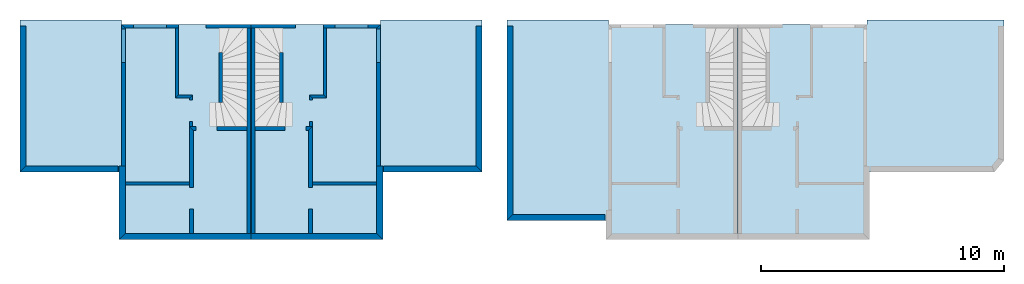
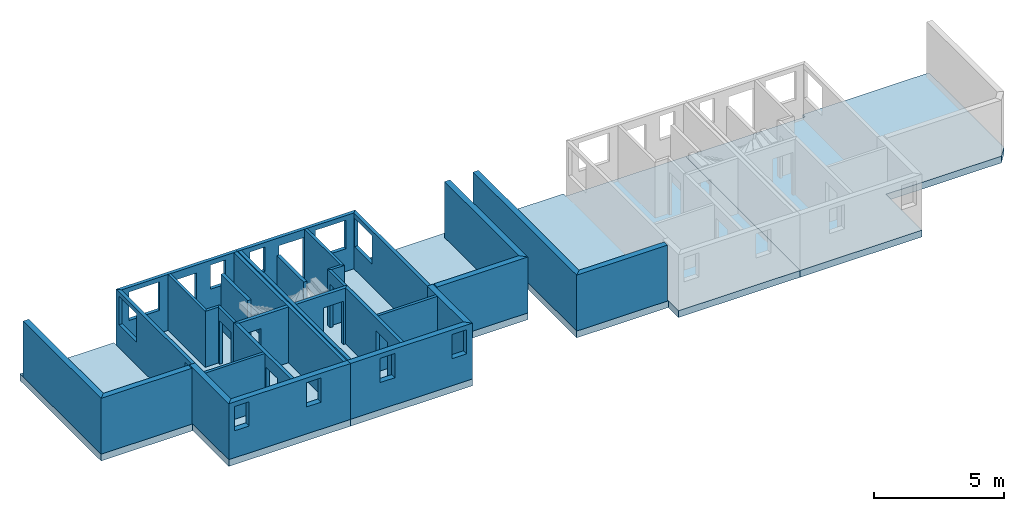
# One storey, part 1 of 2: 30 walls, 4 slabs, 19 openings.
"""IFC2X3 building model written with IfcOpenShell, lengths in metres."""

import ifcopenshell
import ifcopenshell.guid

model = None  # the IFC model being written
_history = None  # IfcOwnerHistory: only IFC2X3 demands one
_inside = {}  # id of a spatial element -> (the spatial element, [elements in it])
_under = {}  # id of a project, library or spatial element -> (it, [spatial elements below it])
_declared = {}  # id of a project -> (the project, [libraries it declares])
_typed = {}  # id of a type object -> (the type object, [elements of that type])
_made_of = {}  # id of a material, layer set ... -> (it, [elements and type objects made of it])


def new_model(schema):
    """Start an empty IFC model of exactly this schema.

    Asked for "IFC4X3", IfcOpenShell would pick the latest addendum, in which some entities
    have other attributes; the version numbers below select the first issue.
    IFC2X3 requires an IfcOwnerHistory on every rooted entity: one is made here for all.
    """
    global model, _history
    if schema == "IFC4X3":
        model = ifcopenshell.file(schema_version=(4, 3, 0, 0))
    else:
        model = ifcopenshell.file(schema=schema)
    _inside.clear()
    _under.clear()
    _declared.clear()
    _typed.clear()
    _made_of.clear()
    _history = None
    if model.schema == "IFC2X3":
        org = make("IfcOrganization", Name="unknown")
        user = make(
            "IfcPersonAndOrganization",
            ThePerson=make("IfcPerson", FamilyName="unknown"),
            TheOrganization=org,
        )
        app = make(
            "IfcApplication",
            ApplicationDeveloper=org,
            Version="unknown",
            ApplicationFullName="unknown",
            ApplicationIdentifier="unknown",
        )
        _history = make(
            "IfcOwnerHistory",
            OwningUser=user,
            OwningApplication=app,
            ChangeAction="ADDED",
            CreationDate=0,
        )
    return model


def make(cls, **values):
    """One entity of the class cls with the attributes given. An attribute that is None is left unset."""
    return model.create_entity(
        cls, **{name: value for name, value in values.items() if value is not None}
    )


def entity(cls, *values):
    """Any entity or typed value of the class cls, its attributes in the order of the schema. None: left unset."""
    e = model.create_entity(cls)
    for i, value in enumerate(values):
        if value is not None:
            e[i] = value
    return e


def rooted(cls, **values):
    """An entity with a GlobalId (a new one), such as an element, a storey or a relation."""
    return make(cls, GlobalId=ifcopenshell.guid.new(), OwnerHistory=_history, **values)


def si_unit(unit_type, name, prefix=None):
    """IfcSIUnit, for example si_unit("LENGTHUNIT", "METRE", prefix="MILLI")."""
    return make("IfcSIUnit", UnitType=unit_type, Prefix=prefix, Name=name)


def converted_unit(unit_type, name, factor, base, dimensions=None, offset=None):
    """IfcConversionBasedUnit, such as the inch: factor (a typed value) times the base unit."""
    return make(
        "IfcConversionBasedUnit"
        if offset is None
        else "IfcConversionBasedUnitWithOffset",
        ConversionOffset=offset,
        Dimensions=None
        if dimensions is None
        else entity("IfcDimensionalExponents", *dimensions),
        UnitType=unit_type,
        Name=name,
        ConversionFactor=make(
            "IfcMeasureWithUnit", ValueComponent=factor, UnitComponent=base
        ),
    )


def money_unit(currency):
    """IfcMonetaryUnit."""
    return make("IfcMonetaryUnit", Currency=currency)


def assignment(units):
    """IfcUnitAssignment: the units of a project."""
    return None if units is None else make("IfcUnitAssignment", Units=units)


def point(xyz):
    """IfcCartesianPoint."""
    return None if xyz is None else make("IfcCartesianPoint", Coordinates=xyz)


def direction(xyz):
    """IfcDirection."""
    return None if xyz is None else make("IfcDirection", DirectionRatios=xyz)


def frame(location, z_axis=None, x_axis=None):
    """IfcAxis2Placement3D, a coordinate frame: its origin and axes. An axis left out is left unset."""
    return make(
        "IfcAxis2Placement3D",
        Location=point(location),
        Axis=direction(z_axis),
        RefDirection=direction(x_axis),
    )


def frame_2d(location, x_axis=None):
    """IfcAxis2Placement2D, a coordinate frame in the plane: its origin and x axis."""
    return make(
        "IfcAxis2Placement2D", Location=point(location), RefDirection=direction(x_axis)
    )


def origin_with_axes():
    """The frame at (0, 0, 0) with the z axis (0, 0, 1) and the x axis (1, 0, 0) written out."""
    return frame((0.0, 0.0, 0.0), z_axis=(0.0, 0.0, 1.0), x_axis=(1.0, 0.0, 0.0))


def origin_2d_with_axis():
    """The frame at (0, 0) in the plane with the x axis (1, 0) written out."""
    return frame_2d((0.0, 0.0), x_axis=(1.0, 0.0))


def place(relative_to, where):
    """IfcLocalPlacement: puts the frame where relative to a parent placement (None: the world)."""
    return make(
        "IfcLocalPlacement", PlacementRelTo=relative_to, RelativePlacement=where
    )


def context(
    kind, dimensions, precision=None, world=None, true_north=None, identifier=None
):
    """IfcGeometricRepresentationContext, for example the 3D "Model" context."""
    return make(
        "IfcGeometricRepresentationContext",
        ContextIdentifier=identifier,
        ContextType=kind,
        CoordinateSpaceDimension=dimensions,
        Precision=precision,
        WorldCoordinateSystem=world,
        TrueNorth=true_north,
    )


def subcontext(parent, identifier, kind, view, scale=None):
    """IfcGeometricRepresentationSubContext, for example "Body" below "Model"."""
    return make(
        "IfcGeometricRepresentationSubContext",
        ContextIdentifier=identifier,
        ContextType=kind,
        ParentContext=parent,
        TargetScale=scale,
        TargetView=view,
    )


def project(units=None, contexts=None):
    """IfcProject with its units and contexts."""
    return rooted(
        "IfcProject",
        Name="project",
        RepresentationContexts=contexts,
        UnitsInContext=assignment(units),
    )


def spatial(cls, under=None, at=None, **own):
    """A site, building, storey or space (cls), placed at a placement, below another one or the project."""
    s = rooted(cls, ObjectPlacement=at, **own)
    if under is not None:
        _under.setdefault(under.id(), (under, []))[1].append(s)
    return s


def polyline(points):
    """IfcPolyline through the points."""
    return make("IfcPolyline", Points=[point(p) for p in points])


def profile(cls, at=None, kind="AREA", **sizes):
    """A parametric profile (cls). Its sizes go by their IFC names, for example OverallWidth=200.0."""
    return make(cls, ProfileType=kind, Position=at, **sizes)


def rectangle(**sizes):
    """IfcRectangleProfileDef."""
    return profile("IfcRectangleProfileDef", **sizes)


def outline(outer, holes=None, kind="AREA"):
    """IfcArbitraryClosedProfileDef: a profile drawn as a closed curve; with holes, ...WithVoids."""
    if holes is None:
        return make("IfcArbitraryClosedProfileDef", ProfileType=kind, OuterCurve=outer)
    return make(
        "IfcArbitraryProfileDefWithVoids",
        ProfileType=kind,
        OuterCurve=outer,
        InnerCurves=holes,
    )


def extrude(swept, where, along, depth):
    """IfcExtrudedAreaSolid: the profile swept, set in the frame where, extruded along a direction by depth."""
    return make(
        "IfcExtrudedAreaSolid",
        SweptArea=swept,
        Position=where,
        ExtrudedDirection=direction(along),
        Depth=depth,
    )


def shape(context_of_items, identifier, shape_type, items):
    """IfcShapeRepresentation: the items that make up one representation, for example the "Body"."""
    return make(
        "IfcShapeRepresentation",
        ContextOfItems=context_of_items,
        RepresentationIdentifier=identifier,
        RepresentationType=shape_type,
        Items=items,
    )


def material(Name=None, Category=None):
    """IfcMaterial."""
    return make("IfcMaterial", Name=Name, Category=Category)


def layer(
    of_material, thickness, ventilated=None, Name=None, Category=None, Priority=None
):
    """IfcMaterialLayer: one layer of a wall or slab, of a material (None: an air gap)."""
    return make(
        "IfcMaterialLayer",
        Material=of_material,
        LayerThickness=thickness,
        IsVentilated=ventilated,
        Name=Name,
        Category=Category,
        Priority=Priority,
    )


def layer_set(layers, Name=None):
    """IfcMaterialLayerSet."""
    return make("IfcMaterialLayerSet", MaterialLayers=layers, LayerSetName=Name)


def layer_usage(for_layer_set, set_direction, sense, offset, extent=None):
    """IfcMaterialLayerSetUsage: how a layer set lies in its element."""
    return make(
        "IfcMaterialLayerSetUsage",
        ForLayerSet=for_layer_set,
        LayerSetDirection=set_direction,
        DirectionSense=sense,
        OffsetFromReferenceLine=offset,
        ReferenceExtent=extent,
    )


def made_of(thing, what):
    """Note that an element or type object is made of a material, layer set ...; save() writes the relation."""
    if what is not None:
        _made_of.setdefault(what.id(), (what, []))[1].append(thing)
    return thing


def type_object(cls, material=None, **own):
    """A type object (cls), such as IfcWallType, which elements share."""
    return made_of(rooted(cls, **own), material)


def element(
    cls,
    number,
    at=None,
    inside=None,
    cuts=None,
    type_object=None,
    material=None,
    context=None,
    identifier="Body",
    shape_type=None,
    held_by="IfcProductDefinitionShape",
    body=None,
    shapes=None,
    **own,
):
    """One element of the class cls, such as IfcWall. Its Tag is "e" and its number.

    at: its placement. inside: the storey or other place that contains it. cuts: it is an
    opening in that element (IfcRelVoidsElement). A single representation is given by context,
    identifier, shape_type and body (its items); several are given by shapes. held_by: the class
    of the entity that holds the representations. save() writes the other relations.
    """
    e = rooted(cls, Tag="e%d" % number, ObjectPlacement=at, **own)
    if body is not None:
        shapes = [shape(context, identifier, shape_type, body)]
    if shapes is not None:
        e.Representation = make(held_by, Representations=shapes)
    if inside is not None:
        _inside.setdefault(inside.id(), (inside, []))[1].append(e)
    if cuts is not None:
        rooted(
            "IfcRelVoidsElement", RelatingBuildingElement=cuts, RelatedOpeningElement=e
        )
    if type_object is not None:
        _typed.setdefault(type_object.id(), (type_object, []))[1].append(e)
    return made_of(e, material)


def aggregate(whole, parts):
    """IfcRelAggregates: a whole, such as a stair, and the parts it consists of."""
    return rooted("IfcRelAggregates", RelatingObject=whole, RelatedObjects=parts)


def save(model, path):
    """Write the relations noted so far, then the file.

    IfcRelAggregates (storeys below a building ...), IfcRelContainedInSpatialStructure (elements
    in a storey), IfcRelDefinesByType, IfcRelAssociatesMaterial and IfcRelDeclares: one each for
    every whole, place, type object, material and project.
    """
    for whole, parts in _under.values():
        aggregate(whole, parts)
    for where, things in _inside.values():
        rooted(
            "IfcRelContainedInSpatialStructure",
            RelatedElements=things,
            RelatingStructure=where,
        )
    for kind, things in _typed.values():
        rooted("IfcRelDefinesByType", RelatedObjects=things, RelatingType=kind)
    for what, things in _made_of.values():
        rooted("IfcRelAssociatesMaterial", RelatedObjects=things, RelatingMaterial=what)
    for by, libraries in _declared.values():
        rooted("IfcRelDeclares", RelatingContext=by, RelatedDefinitions=libraries)
    model.write(path)


model = new_model("IFC2X3")

# Units and contexts
model_context = context("Model", 3, precision=1e-05, world=origin_with_axes(), true_north=direction((0.0, 1.0)))
body_context = subcontext(model_context, "Body", "Model", "MODEL_VIEW")
ifc_project = project(units=[si_unit("LENGTHUNIT", "METRE"), si_unit("AREAUNIT", "SQUARE_METRE"), si_unit("VOLUMEUNIT", "CUBIC_METRE"), converted_unit("PLANEANGLEUNIT", "DEGREE", entity("IfcPlaneAngleMeasure", 0.0174532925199), si_unit("PLANEANGLEUNIT", "RADIAN"), dimensions=[0, 0, 0, 0, 0, 0, 0]), si_unit("SOLIDANGLEUNIT", "STERADIAN"), money_unit("EUR"), si_unit("TIMEUNIT", "SECOND"), si_unit("MASSUNIT", "GRAM"), si_unit("THERMODYNAMICTEMPERATUREUNIT", "DEGREE_CELSIUS"), si_unit("LUMINOUSINTENSITYUNIT", "LUMEN")], contexts=[model_context])

# Site, building, storey
site_placement = place(None, origin_with_axes())
site = spatial("IfcSite", under=ifc_project, at=site_placement, Name="Gelände", CompositionType="ELEMENT")
building_placement = place(site_placement, origin_with_axes())
building = spatial("IfcBuilding", under=site, at=building_placement, Name="Gebäude", CompositionType="ELEMENT")
storey_placement = place(building_placement, frame((0.0, 0.0, -2.63), z_axis=(0.0, 0.0, 1.0), x_axis=(1.0, 0.0, 0.0)))
storey = spatial("IfcBuildingStorey", under=building, at=storey_placement, Name="Untergeschoss", CompositionType="ELEMENT", Elevation=-2.63)

# Slabs
ifc_material_1 = material(Name="Beton, Stahlbeton")
ifc_layer_1 = layer(ifc_material_1, 0.32000000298, ventilated="UNKNOWN")
ifc_layer_set_1 = layer_set([ifc_layer_1], Name="Beton, Stahlbeton 0.32")
ifc_layer_usage_1 = layer_usage(ifc_layer_set_1, "AXIS3", "NEGATIVE", 0.32000000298)
slab_type = type_object("IfcSlabType", Name="Beton, Stahlbeton 320", PredefinedType="FLOOR")
slab_1_placement = place(storey_placement, frame((2.85405580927, -4.81220592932, 0.0), z_axis=(0.0, 0.0, 1.0), x_axis=(1.0, 0.0, 0.0)))
element("IfcSlab", 1, at=slab_1_placement, inside=storey, type_object=slab_type, material=ifc_layer_usage_1, Name="Fundamentplatte A", PredefinedType="FLOOR", context=body_context, shape_type="SweptSolid", body=[
    extrude(outline(polyline([(0.0, 0.0), (4.07999988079, 0.0), (4.07999988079, -2.78000000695), (9.49996173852, -2.78000000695), (9.49996173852, 6.06999998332), (4.17999988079, 6.06999991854), (4.17999988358, 6.24999994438), (0.0, 6.25000000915), (0.0, 0.0)])), frame((0.0, 0.0, -0.32000000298), z_axis=(0.0, 0.0, 1.0), x_axis=(1.0, 0.0, 0.0)), (0.0, 0.0, 1.0), 0.32000000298),
])
ifc_layer_usage_2 = layer_usage(ifc_layer_set_1, "AXIS3", "NEGATIVE", 0.32000000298)
slab_2_placement = place(storey_placement, frame((21.8539792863, -4.81220583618, 0.0), z_axis=(0.0, 0.0, 1.0), x_axis=(1.0, 0.0, 0.0)))
element("IfcSlab", 2, at=slab_2_placement, inside=storey, type_object=slab_type, material=ifc_layer_usage_2, Name="Fundamentplatte B", PredefinedType="FLOOR", context=body_context, shape_type="SweptSolid", body=[
    extrude(outline(polyline([(0.0, 0.0), (0.0, 6.2499999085), (-4.17999988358, 6.24999984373), (-4.17999988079, 6.06999982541), (-9.49996173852, 6.06999989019), (-9.49996173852, -2.78000010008), (-4.07999988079, -2.78000010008), (-4.07999988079, 0.0), (0.0, 0.0)])), frame((0.0, 0.0, -0.32000000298), z_axis=(0.0, 0.0, 1.0), x_axis=(1.0, 0.0, 0.0)), (0.0, 0.0, 1.0), 0.32000000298),
])
ifc_layer_usage_3 = layer_usage(ifc_layer_set_1, "AXIS3", "NEGATIVE", 0.32000000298)
slab_3_placement = place(storey_placement, frame((43.3239027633, -4.3370392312, 0.0), z_axis=(0.0, 0.0, 1.0), x_axis=(1.0, 0.0, 0.0)))
element("IfcSlab", 3, at=slab_3_placement, inside=storey, type_object=slab_type, material=ifc_layer_usage_3, Name="Fundamentplatte D", PredefinedType="FLOOR", context=body_context, shape_type="SweptSolid", body=[
    extrude(outline(polyline([(0.0, 0.0), (0.0, 5.77483330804), (-5.62999988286, 5.77483324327), (-5.62999988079, 5.59483322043), (-10.9499617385, 5.5948332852), (-10.9499617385, -3.25516670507), (-5.52999988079, -3.25516670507), (-5.52999988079, -0.475166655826), (-0.389999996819, -0.475166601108), (0.0, 0.0)])), frame((0.0, 0.0, -0.32000000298), z_axis=(0.0, 0.0, 1.0), x_axis=(1.0, 0.0, 0.0)), (0.0, 0.0, 1.0), 0.32000000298),
])
ifc_layer_usage_4 = layer_usage(ifc_layer_set_1, "AXIS3", "NEGATIVE", 0.32000000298)
slab_4_placement = place(storey_placement, frame((22.8739792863, 1.43779411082, 0.0), z_axis=(0.0, 0.0, 1.0), x_axis=(1.0, 0.0, 0.0)))
element("IfcSlab", 4, at=slab_4_placement, inside=storey, type_object=slab_type, material=ifc_layer_usage_4, Name="Fundamentplatte C", PredefinedType="FLOOR", context=body_context, shape_type="SweptSolid", body=[
    extrude(outline(polyline([(0.0, 0.0), (0.0, -8.25000004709), (4.07999990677, -8.25000004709), (4.07999990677, -9.03000004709), (9.49996173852, -9.03000004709), (9.49996173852, -0.180000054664), (4.17999988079, -0.180000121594), (4.17999988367, -6.69302417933e-08), (0.0, 0.0)])), frame((0.0, 0.0, -0.32000000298), z_axis=(0.0, 0.0, 1.0), x_axis=(1.0, 0.0, 0.0)), (0.0, 0.0, 1.0), 0.32000000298),
])

# Walls
ifc_layer_2 = layer(ifc_material_1, 0.25, ventilated="UNKNOWN")
ifc_layer_set_2 = layer_set([ifc_layer_2], Name="Beton, Stahlbeton 0.25")
ifc_layer_usage_5 = layer_usage(ifc_layer_set_2, "AXIS2", "POSITIVE", 0.0)
wall_type_1 = type_object("IfcWallType", Name="Beton, Stahlbeton 250", PredefinedType="NOTDEFINED")
wall_1_placement = place(storey_placement, frame((2.85405580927, 1.18779389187, 0.0), z_axis=(0.0, 0.0, 1.0), x_axis=(0.0, -1.0, 0.0)))
element("IfcWallStandardCase", 5, at=wall_1_placement, inside=storey, type_object=wall_type_1, material=ifc_layer_usage_5, Name="Aussenwand A", context=body_context, shape_type="SweptSolid", body=[
    extrude(outline(polyline([(0.0, 0.0), (5.99999982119, 0.0), (5.74999982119, 0.25), (0.0, 0.25), (0.0, 0.0)])), origin_with_axes(), (0.0, 0.0, 1.0), 2.63),
])
ifc_layer_usage_6 = layer_usage(ifc_layer_set_2, "AXIS2", "POSITIVE", 0.0)
wall_2_placement = place(storey_placement, frame((2.85405580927, -4.81220592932, 0.0), z_axis=(0.0, 0.0, 1.0), x_axis=(1.0, 0.0, 0.0)))
element("IfcWallStandardCase", 6, at=wall_2_placement, inside=storey, type_object=wall_type_1, material=ifc_layer_usage_6, Name="Aussenwand A", context=body_context, shape_type="SweptSolid", body=[
    extrude(outline(polyline([(0.0, 0.0), (4.03999988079, 0.0), (4.03999988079, 0.25), (0.25, 0.25), (0.0, 0.0)])), origin_with_axes(), (0.0, 0.0, 1.0), 2.63),
])
ifc_layer_usage_7 = layer_usage(ifc_layer_set_2, "AXIS2", "POSITIVE", 0.0)
wall_3_placement = place(storey_placement, frame((6.93405569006, -4.56220592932, 0.0), z_axis=(0.0, 0.0, 1.0), x_axis=(0.0, -1.0, 0.0)))
element("IfcWallStandardCase", 7, at=wall_3_placement, inside=storey, type_object=wall_type_1, material=ifc_layer_usage_7, Name="Aussenwand A", context=body_context, shape_type="SweptSolid", body=[
    extrude(outline(polyline([(0.0, 0.0), (3.03000000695, 0.0), (2.78000000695, 0.25), (0.0, 0.25), (0.0, 0.0)])), origin_with_axes(), (0.0, 0.0, 1.0), 2.63),
])

# Wall, openings
ifc_layer_usage_8 = layer_usage(ifc_layer_set_2, "AXIS2", "POSITIVE", 0.0)
wall_4_placement = place(storey_placement, frame((6.93405569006, -7.59220593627, 0.0), z_axis=(0.0, 0.0, 1.0), x_axis=(1.0, 0.0, 0.0)))
wall_4 = element("IfcWallStandardCase", 8, at=wall_4_placement, inside=storey, type_object=wall_type_1, material=ifc_layer_usage_8, Name="Aussenwand A", context=body_context, shape_type="SweptSolid", body=[
    extrude(outline(polyline([(0.0, 0.0), (5.41996185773, 0.0), (5.41996185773, 0.25), (0.25, 0.25), (0.0, 0.0)])), origin_with_axes(), (0.0, 0.0, 1.0), 2.63),
])
opening_1_placement = place(wall_4_placement, frame((0.58, 0.0, 1.27), z_axis=(0.0, 0.0, 1.0), x_axis=(1.0, 0.0, 0.0)))
element("IfcOpeningElement", 9, at=opening_1_placement, cuts=wall_4, Name="Fenster A", context=body_context, shape_type="SweptSolid", body=[
    extrude(rectangle(XDim=0.66, YDim=1.14, at=origin_2d_with_axis()), frame((0.0, 0.1, 0.57), z_axis=(0.0, -1.0, 0.0), x_axis=(1.0, 0.0, 0.0)), (0.0, 0.0, -1.0), 0.25),
    extrude(rectangle(XDim=0.66, YDim=1.14, at=origin_2d_with_axis()), frame((0.0, 0.1, 0.57), z_axis=(0.0, 1.0, 0.0), x_axis=(1.0, 0.0, 0.0)), (0.0, 0.0, -1.0), 0.25),
])
opening_2_placement = place(wall_4_placement, frame((3.78, 0.0, 1.27), z_axis=(0.0, 0.0, 1.0), x_axis=(1.0, 0.0, 0.0)))
element("IfcOpeningElement", 10, at=opening_2_placement, cuts=wall_4, Name="Fenster A", context=body_context, shape_type="SweptSolid", body=[
    extrude(rectangle(XDim=0.66, YDim=1.14, at=origin_2d_with_axis()), frame((0.0, 0.15, 0.57), z_axis=(0.0, 1.0, 0.0), x_axis=(1.0, 0.0, 0.0)), (0.0, 0.0, -1.0), 0.25),
    extrude(rectangle(XDim=0.66, YDim=1.14, at=origin_2d_with_axis()), frame((0.0, 0.15, 0.57), z_axis=(0.0, -1.0, 0.0), x_axis=(1.0, 0.0, 0.0)), (0.0, 0.0, -1.0), 0.25),
])

# Walls
ifc_layer_usage_9 = layer_usage(ifc_layer_set_2, "AXIS2", "NEGATIVE", 0.0)
wall_5_placement = place(storey_placement, frame((21.8539792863, 1.187793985, 0.0), z_axis=(0.0, 0.0, 1.0), x_axis=(0.0, -1.0, 0.0)))
element("IfcWallStandardCase", 11, at=wall_5_placement, inside=storey, type_object=wall_type_1, material=ifc_layer_usage_9, Name="Aussenwand B", context=body_context, shape_type="SweptSolid", body=[
    extrude(outline(polyline([(0.0, -0.25), (5.74999982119, -0.25), (5.99999982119, 0.0), (0.0, 0.0), (0.0, -0.25)])), origin_with_axes(), (0.0, 0.0, 1.0), 2.63),
])
ifc_layer_usage_10 = layer_usage(ifc_layer_set_2, "AXIS2", "NEGATIVE", 0.0)
wall_6_placement = place(storey_placement, frame((21.8539792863, -4.81220583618, 0.0), z_axis=(0.0, 0.0, 1.0), x_axis=(-1.0, 0.0, 0.0)))
element("IfcWallStandardCase", 12, at=wall_6_placement, inside=storey, type_object=wall_type_1, material=ifc_layer_usage_10, Name="Aussenwand B", context=body_context, shape_type="SweptSolid", body=[
    extrude(outline(polyline([(0.25, -0.25), (4.03999988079, -0.25), (4.03999988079, 0.0), (0.0, 0.0), (0.25, -0.25)])), origin_with_axes(), (0.0, 0.0, 1.0), 2.63),
])
ifc_layer_usage_11 = layer_usage(ifc_layer_set_2, "AXIS2", "NEGATIVE", 0.0)
wall_7_placement = place(storey_placement, frame((17.7739794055, -4.56220583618, 0.0), z_axis=(0.0, 0.0, 1.0), x_axis=(0.0, -1.0, 0.0)))
element("IfcWallStandardCase", 13, at=wall_7_placement, inside=storey, type_object=wall_type_1, material=ifc_layer_usage_11, Name="Aussenwand B", context=body_context, shape_type="SweptSolid", body=[
    extrude(outline(polyline([(0.0, -0.25), (2.78000010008, -0.25), (3.03000010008, 0.0), (0.0, 0.0), (0.0, -0.25)])), origin_with_axes(), (0.0, 0.0, 1.0), 2.63),
])

# Wall, openings
ifc_layer_usage_12 = layer_usage(ifc_layer_set_2, "AXIS2", "NEGATIVE", 0.0)
wall_8_placement = place(storey_placement, frame((17.7739794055, -7.59220593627, 0.0), z_axis=(0.0, 0.0, 1.0), x_axis=(-1.0, 0.0, 0.0)))
wall_8 = element("IfcWallStandardCase", 14, at=wall_8_placement, inside=storey, type_object=wall_type_1, material=ifc_layer_usage_12, Name="Aussenwand B", context=body_context, shape_type="SweptSolid", body=[
    extrude(outline(polyline([(0.25, -0.25), (5.41996185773, -0.25), (5.41996185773, 0.0), (0.0, 0.0), (0.25, -0.25)])), origin_with_axes(), (0.0, 0.0, 1.0), 2.63),
])
opening_3_placement = place(wall_8_placement, frame((0.58, 0.0, 1.27), z_axis=(0.0, 0.0, 1.0), x_axis=(1.0, 0.0, 0.0)))
element("IfcOpeningElement", 15, at=opening_3_placement, cuts=wall_8, Name="Fenster B", context=body_context, shape_type="SweptSolid", body=[
    extrude(rectangle(XDim=0.66, YDim=1.14, at=origin_2d_with_axis()), frame((0.0, -0.1, 0.57), z_axis=(0.0, 1.0, 0.0), x_axis=(1.0, 0.0, 0.0)), (0.0, 0.0, -1.0), 0.25),
    extrude(rectangle(XDim=0.66, YDim=1.14, at=origin_2d_with_axis()), frame((0.0, -0.1, 0.57), z_axis=(0.0, -1.0, 0.0), x_axis=(1.0, 0.0, 0.0)), (0.0, 0.0, -1.0), 0.25),
])
opening_4_placement = place(wall_8_placement, frame((3.78, 0.0, 1.27), z_axis=(0.0, 0.0, 1.0), x_axis=(1.0, 0.0, 0.0)))
element("IfcOpeningElement", 16, at=opening_4_placement, cuts=wall_8, Name="Fenster B", context=body_context, shape_type="SweptSolid", body=[
    extrude(rectangle(XDim=0.66, YDim=1.14, at=origin_2d_with_axis()), frame((0.0, -0.15, 0.57), z_axis=(0.0, -1.0, 0.0), x_axis=(1.0, 0.0, 0.0)), (0.0, 0.0, -1.0), 0.25),
    extrude(rectangle(XDim=0.66, YDim=1.14, at=origin_2d_with_axis()), frame((0.0, -0.15, 0.57), z_axis=(0.0, 1.0, 0.0), x_axis=(1.0, 0.0, 0.0)), (0.0, 0.0, -1.0), 0.25),
])

# Walls
ifc_layer_usage_13 = layer_usage(ifc_layer_set_2, "AXIS2", "POSITIVE", 0.0)
wall_9_placement = place(storey_placement, frame((22.8739792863, 1.187793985, 0.0), z_axis=(0.0, 0.0, 1.0), x_axis=(0.0, -1.0, 0.0)))
element("IfcWallStandardCase", 17, at=wall_9_placement, inside=storey, type_object=wall_type_1, material=ifc_layer_usage_13, Name="Aussenwand C", context=body_context, shape_type="SweptSolid", body=[
    extrude(outline(polyline([(0.0, 0.0), (7.99999992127, 0.0), (7.74999992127, 0.25), (0.0, 0.25), (0.0, 0.0)])), origin_with_axes(), (0.0, 0.0, 1.0), 2.63),
])
ifc_layer_usage_14 = layer_usage(ifc_layer_set_2, "AXIS2", "POSITIVE", 0.0)
wall_10_placement = place(storey_placement, frame((22.8739792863, -6.81220593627, 0.0), z_axis=(0.0, 0.0, 1.0), x_axis=(1.0, 0.0, 0.0)))
element("IfcWallStandardCase", 18, at=wall_10_placement, inside=storey, type_object=wall_type_1, material=ifc_layer_usage_14, Name="Aussenwand C", context=body_context, shape_type="SweptSolid", body=[
    extrude(outline(polyline([(0.0, 0.0), (4.03999988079, 0.0), (4.03999988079, 0.25), (0.25, 0.25), (0.0, 0.0)])), origin_with_axes(), (0.0, 0.0, 1.0), 2.63),
])

# Wall, openings
ifc_layer_3 = layer(ifc_material_1, 0.15, ventilated="UNKNOWN")
ifc_layer_set_3 = layer_set([ifc_layer_3], Name="Beton, Stahlbeton 0.15")
ifc_layer_usage_15 = layer_usage(ifc_layer_set_3, "AXIS2", "POSITIVE", 0.0)
wall_type_2 = type_object("IfcWallType", Name="Beton, Stahlbeton 150", PredefinedType="NOTDEFINED")
wall_11_placement = place(storey_placement, frame((7.18405569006, -4.56220592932, 0.0), z_axis=(0.0, 0.0, 1.0), x_axis=(0.0, 1.0, 0.0)))
wall_11 = element("IfcWallStandardCase", 19, at=wall_11_placement, inside=storey, type_object=wall_type_2, material=ifc_layer_usage_15, Name="Aussenwand A", context=body_context, shape_type="SweptSolid", body=[
    extrude(outline(polyline([(0.0, 0.0), (5.66999991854, 0.0), (5.81999991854, 0.15), (0.0, 0.15), (0.0, 0.0)])), origin_with_axes(), (0.0, 0.0, 1.0), 2.63),
])
opening_5_placement = place(wall_11_placement, frame((0.265, 0.0, 1.27), z_axis=(0.0, 0.0, 1.0), x_axis=(1.0, 0.0, 0.0)))
element("IfcOpeningElement", 20, at=opening_5_placement, cuts=wall_11, Name="Fenster A", context=body_context, shape_type="SweptSolid", body=[
    extrude(rectangle(XDim=0.53, YDim=1.14, at=origin_2d_with_axis()), frame((0.0, 0.15, 0.57), z_axis=(0.0, 1.0, 0.0), x_axis=(1.0, 0.0, 0.0)), (0.0, 0.0, -1.0), 0.15),
    extrude(rectangle(XDim=0.53, YDim=1.14, at=origin_2d_with_axis()), frame((0.0, 0.15, 0.57), z_axis=(0.0, -1.0, 0.0), x_axis=(1.0, 0.0, 0.0)), (0.0, 0.0, -1.0), 0.15),
])
opening_6_placement = place(wall_11_placement, frame((4.94232753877, 0.0, 1.07), z_axis=(0.0, 0.0, 1.0), x_axis=(1.0, 0.0, 0.0)))
element("IfcOpeningElement", 21, at=opening_6_placement, cuts=wall_11, Name="Fenster A", context=body_context, shape_type="SweptSolid", body=[
    extrude(rectangle(XDim=1.36, YDim=1.34, at=origin_2d_with_axis()), frame((0.0, 0.0, 0.67), z_axis=(0.0, -1.0, 0.0), x_axis=(1.0, 0.0, 0.0)), (0.0, 0.0, -1.0), 0.15),
    extrude(rectangle(XDim=1.36, YDim=1.34, at=origin_2d_with_axis()), frame((0.0, 0.0, 0.67), z_axis=(0.0, 1.0, 0.0), x_axis=(1.0, 0.0, 0.0)), (0.0, 0.0, -1.0), 0.15),
])

ifc_layer_usage_16 = layer_usage(ifc_layer_set_3, "AXIS2", "NEGATIVE", 0.0)
wall_12_placement = place(storey_placement, frame((7.18405569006, 1.25779398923, 0.0), z_axis=(0.0, 0.0, 1.0), x_axis=(1.0, 0.0, 0.0)))
wall_12 = element("IfcWallStandardCase", 22, at=wall_12_placement, inside=storey, type_object=wall_type_2, material=ifc_layer_usage_16, Name="Aussenwand A", context=body_context, shape_type="SweptSolid", body=[
    extrude(outline(polyline([(0.0, -0.15), (5.16996185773, -0.15), (5.16996185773, 0.0), (-0.15, 0.0), (0.0, -0.15)])), origin_with_axes(), (0.0, 0.0, 1.0), 2.63),
])
opening_7_placement = place(wall_12_placement, frame((4.29, 0.0, 1.27), z_axis=(0.0, 0.0, 1.0), x_axis=(1.0, 0.0, 0.0)))
element("IfcOpeningElement", 23, at=opening_7_placement, cuts=wall_12, Name="Fenster A", context=body_context, shape_type="SweptSolid", body=[
    extrude(rectangle(XDim=0.66, YDim=1.14, at=origin_2d_with_axis()), frame((0.0, 0.0, 0.57), z_axis=(0.0, 1.0, 0.0), x_axis=(1.0, 0.0, 0.0)), (0.0, 0.0, -1.0), 0.15),
    extrude(rectangle(XDim=0.66, YDim=1.14, at=origin_2d_with_axis()), frame((0.0, 0.0, 0.57), z_axis=(0.0, -1.0, 0.0), x_axis=(1.0, 0.0, 0.0)), (0.0, 0.0, -1.0), 0.15),
])
opening_8_placement = place(wall_12_placement, frame((1.02, 0.0, 1.07), z_axis=(0.0, 0.0, 1.0), x_axis=(1.0, 0.0, 0.0)))
element("IfcOpeningElement", 24, at=opening_8_placement, cuts=wall_12, Name="Fenster A", context=body_context, shape_type="SweptSolid", body=[
    extrude(rectangle(XDim=1.36, YDim=1.34, at=origin_2d_with_axis()), frame((0.0, 0.0, 0.67), z_axis=(0.0, 1.0, 0.0), x_axis=(1.0, 0.0, 0.0)), (0.0, 0.0, -1.0), 0.15),
    extrude(rectangle(XDim=1.36, YDim=1.34, at=origin_2d_with_axis()), frame((0.0, 0.0, 0.67), z_axis=(0.0, -1.0, 0.0), x_axis=(1.0, 0.0, 0.0)), (0.0, 0.0, -1.0), 0.15),
])
opening_9_placement = place(wall_12_placement, frame((2.76, 0.0, 0.0), z_axis=(0.0, 0.0, 1.0), x_axis=(1.0, 0.0, 0.0)))
element("IfcOpeningElement", 25, at=opening_9_placement, cuts=wall_12, Name="Tür A", context=body_context, shape_type="SweptSolid", body=[
    extrude(rectangle(XDim=1.14, YDim=2.25, at=origin_2d_with_axis()), frame((0.0, -0.15, 1.125), z_axis=(0.0, 1.0, 0.0), x_axis=(1.0, 0.0, 0.0)), (0.0, 0.0, -1.0), 0.15),
    extrude(rectangle(XDim=1.14, YDim=2.25, at=origin_2d_with_axis()), frame((0.0, -0.15, 1.125), z_axis=(0.0, -1.0, 0.0), x_axis=(1.0, 0.0, 0.0)), (0.0, 0.0, -1.0), 0.15),
])

# Wall, opening
ifc_layer_usage_17 = layer_usage(ifc_layer_set_3, "AXIS2", "NEGATIVE", 0.0)
wall_13_placement = place(storey_placement, frame((17.5239794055, -4.56220583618, 0.0), z_axis=(0.0, 0.0, 1.0), x_axis=(0.0, 1.0, 0.0)))
wall_13 = element("IfcWallStandardCase", 26, at=wall_13_placement, inside=storey, type_object=wall_type_2, material=ifc_layer_usage_17, Name="Aussenwand B", context=body_context, shape_type="SweptSolid", body=[
    extrude(outline(polyline([(0.0, -0.15), (5.81999982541, -0.15), (5.66999982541, 0.0), (0.0, 0.0), (0.0, -0.15)])), origin_with_axes(), (0.0, 0.0, 1.0), 2.63),
])
opening_10_placement = place(wall_13_placement, frame((4.94232744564, 0.0, 1.07), z_axis=(0.0, 0.0, 1.0), x_axis=(1.0, 0.0, 0.0)))
element("IfcOpeningElement", 27, at=opening_10_placement, cuts=wall_13, Name="Fenster B", context=body_context, shape_type="SweptSolid", body=[
    extrude(rectangle(XDim=1.36, YDim=1.34, at=origin_2d_with_axis()), frame((0.0, 0.0, 0.67), z_axis=(0.0, 1.0, 0.0), x_axis=(1.0, 0.0, 0.0)), (0.0, 0.0, -1.0), 0.15),
    extrude(rectangle(XDim=1.36, YDim=1.34, at=origin_2d_with_axis()), frame((0.0, 0.0, 0.67), z_axis=(0.0, -1.0, 0.0), x_axis=(1.0, 0.0, 0.0)), (0.0, 0.0, -1.0), 0.15),
])

# Wall, openings
ifc_layer_usage_18 = layer_usage(ifc_layer_set_3, "AXIS2", "POSITIVE", 0.0)
wall_14_placement = place(storey_placement, frame((17.5239794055, 1.25779398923, 0.0), z_axis=(0.0, 0.0, 1.0), x_axis=(-1.0, 0.0, 0.0)))
wall_14 = element("IfcWallStandardCase", 28, at=wall_14_placement, inside=storey, type_object=wall_type_2, material=ifc_layer_usage_18, Name="Aussenwand B", context=body_context, shape_type="SweptSolid", body=[
    extrude(outline(polyline([(-0.15, 0.0), (5.16996185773, 0.0), (5.16996185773, 0.15), (0.0, 0.15), (-0.15, 0.0)])), origin_with_axes(), (0.0, 0.0, 1.0), 2.63),
])
opening_11_placement = place(wall_14_placement, frame((4.29, 0.0, 1.27), z_axis=(0.0, 0.0, 1.0), x_axis=(1.0, 0.0, 0.0)))
element("IfcOpeningElement", 29, at=opening_11_placement, cuts=wall_14, Name="Fenster B", context=body_context, shape_type="SweptSolid", body=[
    extrude(rectangle(XDim=0.66, YDim=1.14, at=origin_2d_with_axis()), frame((0.0, 0.0, 0.57), z_axis=(0.0, -1.0, 0.0), x_axis=(1.0, 0.0, 0.0)), (0.0, 0.0, -1.0), 0.15),
    extrude(rectangle(XDim=0.66, YDim=1.14, at=origin_2d_with_axis()), frame((0.0, 0.0, 0.57), z_axis=(0.0, 1.0, 0.0), x_axis=(1.0, 0.0, 0.0)), (0.0, 0.0, -1.0), 0.15),
])
opening_12_placement = place(wall_14_placement, frame((1.03, 0.0, 1.07), z_axis=(0.0, 0.0, 1.0), x_axis=(1.0, 0.0, 0.0)))
element("IfcOpeningElement", 30, at=opening_12_placement, cuts=wall_14, Name="Fenster A", context=body_context, shape_type="SweptSolid", body=[
    extrude(rectangle(XDim=1.36, YDim=1.34, at=origin_2d_with_axis()), frame((0.0, 0.0, 0.67), z_axis=(0.0, -1.0, 0.0), x_axis=(1.0, 0.0, 0.0)), (0.0, 0.0, -1.0), 0.15),
    extrude(rectangle(XDim=1.36, YDim=1.34, at=origin_2d_with_axis()), frame((0.0, 0.0, 0.67), z_axis=(0.0, 1.0, 0.0), x_axis=(1.0, 0.0, 0.0)), (0.0, 0.0, -1.0), 0.15),
])
opening_13_placement = place(wall_14_placement, frame((2.76, 0.0, 0.0), z_axis=(0.0, 0.0, 1.0), x_axis=(1.0, 0.0, 0.0)))
element("IfcOpeningElement", 31, at=opening_13_placement, cuts=wall_14, Name="Tür B", context=body_context, shape_type="SweptSolid", body=[
    extrude(rectangle(XDim=1.14, YDim=2.25, at=origin_2d_with_axis()), frame((0.0, 0.15, 1.125), z_axis=(0.0, -1.0, 0.0), x_axis=(1.0, 0.0, 0.0)), (0.0, 0.0, -1.0), 0.15),
    extrude(rectangle(XDim=1.14, YDim=2.25, at=origin_2d_with_axis()), frame((0.0, 0.15, 1.125), z_axis=(0.0, 1.0, 0.0), x_axis=(1.0, 0.0, 0.0)), (0.0, 0.0, -1.0), 0.15),
])

# Walls
ifc_material_2 = material(Name="MW, Kalksandstein")
ifc_layer_4 = layer(ifc_material_2, 0.12, ventilated="UNKNOWN")
ifc_layer_set_4 = layer_set([ifc_layer_4], Name="MW, Kalksandstein 0.12")
ifc_layer_usage_19 = layer_usage(ifc_layer_set_4, "AXIS2", "POSITIVE", 0.0)
wall_type_3 = type_object("IfcWallType", Name="MW, Kalksandstein 120", PredefinedType="NOTDEFINED")
wall_15_placement = place(storey_placement, frame((6.93405569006, -5.35220593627, 0.0), z_axis=(0.0, 0.0, 1.0), x_axis=(1.0, 0.0, 0.0)))
element("IfcWallStandardCase", 32, at=wall_15_placement, inside=storey, type_object=wall_type_3, material=ifc_layer_usage_19, Name="Innenwand A", context=body_context, shape_type="SweptSolid", body=[
    extrude(outline(polyline([(0.25, 0.0), (2.9, 0.0), (2.9, 0.12), (0.25, 0.12), (0.25, 0.0)])), origin_with_axes(), (0.0, 0.0, 1.0), 2.63),
])
ifc_layer_usage_20 = layer_usage(ifc_layer_set_4, "AXIS2", "NEGATIVE", 0.0)
wall_16_placement = place(storey_placement, frame((9.83405569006, -1.76220593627, 0.0), z_axis=(0.0, 0.0, 1.0), x_axis=(-1.0, 0.0, 0.0)))
element("IfcWallStandardCase", 33, at=wall_16_placement, inside=storey, type_object=wall_type_3, material=ifc_layer_usage_20, Name="Innenwand A", context=body_context, shape_type="SweptSolid", body=[
    extrude(outline(polyline([(-0.12, -0.12), (0.46, -0.12), (0.58, 0.0), (0.0, 0.0), (-0.12, -0.12)])), origin_with_axes(), (0.0, 0.0, 1.0), 2.63),
])
ifc_layer_usage_21 = layer_usage(ifc_layer_set_4, "AXIS2", "NEGATIVE", 0.0)
wall_17_placement = place(storey_placement, frame((9.25405569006, -1.76220593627, 0.0), z_axis=(0.0, 0.0, 1.0), x_axis=(0.0, 1.0, 0.0)))
element("IfcWallStandardCase", 34, at=wall_17_placement, inside=storey, type_object=wall_type_3, material=ifc_layer_usage_21, Name="Innenwand A", context=body_context, shape_type="SweptSolid", body=[
    extrude(outline(polyline([(0.12, -0.12), (2.86999992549, -0.12), (2.86999992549, 0.0), (0.0, 0.0), (0.12, -0.12)])), origin_with_axes(), (0.0, 0.0, 1.0), 2.63),
])

# Wall, opening
ifc_layer_usage_22 = layer_usage(ifc_layer_set_4, "AXIS2", "NEGATIVE", 0.0)
wall_18_placement = place(storey_placement, frame((9.83405569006, -2.95220593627, 0.0), z_axis=(0.0, 0.0, 1.0), x_axis=(0.0, 1.0, 0.0)))
wall_18 = element("IfcWallStandardCase", 35, at=wall_18_placement, inside=storey, type_object=wall_type_3, material=ifc_layer_usage_22, Name="Innenwand A", context=body_context, shape_type="SweptSolid", body=[
    extrude(outline(polyline([(0.0, -0.12), (1.31, -0.12), (1.19, 0.0), (0.0, 0.0), (0.0, -0.12)])), origin_with_axes(), (0.0, 0.0, 1.0), 2.63),
])
opening_14_placement = place(wall_18_placement, frame((0.65, 0.0, 0.0), z_axis=(0.0, 0.0, 1.0), x_axis=(1.0, 0.0, 0.0)))
element("IfcOpeningElement", 36, at=opening_14_placement, cuts=wall_18, Name="Tür A", context=body_context, shape_type="SweptSolid", body=[
    extrude(rectangle(XDim=0.88, YDim=2.04, at=origin_2d_with_axis()), frame((0.0, 0.0, 1.02), z_axis=(0.0, -1.0, 0.0), x_axis=(1.0, 0.0, 0.0)), (0.0, 0.0, -1.0), 0.12),
    extrude(rectangle(XDim=0.88, YDim=2.04, at=origin_2d_with_axis()), frame((0.0, 0.0, 1.02), z_axis=(0.0, 1.0, 0.0), x_axis=(1.0, 0.0, 0.0)), (0.0, 0.0, -1.0), 0.12),
])

# Walls
ifc_layer_usage_23 = layer_usage(ifc_layer_set_4, "AXIS2", "NEGATIVE", 0.0)
wall_19_placement = place(storey_placement, frame((17.7739794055, -5.35220593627, 0.0), z_axis=(0.0, 0.0, 1.0), x_axis=(-1.0, 0.0, 0.0)))
element("IfcWallStandardCase", 37, at=wall_19_placement, inside=storey, type_object=wall_type_3, material=ifc_layer_usage_23, Name="Innenwand B", context=body_context, shape_type="SweptSolid", body=[
    extrude(outline(polyline([(0.25, -0.12), (2.9, -0.12), (2.9, 0.0), (0.25, 0.0), (0.25, -0.12)])), origin_with_axes(), (0.0, 0.0, 1.0), 2.63),
])
ifc_layer_usage_24 = layer_usage(ifc_layer_set_4, "AXIS2", "POSITIVE", 0.0)
wall_20_placement = place(storey_placement, frame((14.8739794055, -1.76220593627, 0.0), z_axis=(0.0, 0.0, 1.0), x_axis=(1.0, 0.0, 0.0)))
element("IfcWallStandardCase", 38, at=wall_20_placement, inside=storey, type_object=wall_type_3, material=ifc_layer_usage_24, Name="Innenwand B", context=body_context, shape_type="SweptSolid", body=[
    extrude(outline(polyline([(0.0, 0.0), (0.58, 0.0), (0.46, 0.12), (-0.12, 0.12), (0.0, 0.0)])), origin_with_axes(), (0.0, 0.0, 1.0), 2.63),
])
ifc_layer_usage_25 = layer_usage(ifc_layer_set_4, "AXIS2", "POSITIVE", 0.0)
wall_21_placement = place(storey_placement, frame((15.4539794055, -1.76220593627, 0.0), z_axis=(0.0, 0.0, 1.0), x_axis=(0.0, 1.0, 0.0)))
element("IfcWallStandardCase", 39, at=wall_21_placement, inside=storey, type_object=wall_type_3, material=ifc_layer_usage_25, Name="Innenwand B", context=body_context, shape_type="SweptSolid", body=[
    extrude(outline(polyline([(0.0, 0.0), (2.86999992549, 0.0), (2.86999992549, 0.12), (0.12, 0.12), (0.0, 0.0)])), origin_with_axes(), (0.0, 0.0, 1.0), 2.63),
])

# Wall, opening
ifc_layer_usage_26 = layer_usage(ifc_layer_set_4, "AXIS2", "POSITIVE", 0.0)
wall_22_placement = place(storey_placement, frame((14.8739794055, -2.95220593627, 0.0), z_axis=(0.0, 0.0, 1.0), x_axis=(0.0, 1.0, 0.0)))
wall_22 = element("IfcWallStandardCase", 40, at=wall_22_placement, inside=storey, type_object=wall_type_3, material=ifc_layer_usage_26, Name="Innenwand B", context=body_context, shape_type="SweptSolid", body=[
    extrude(outline(polyline([(0.0, 0.0), (1.19, 0.0), (1.31, 0.12), (0.0, 0.12), (0.0, 0.0)])), origin_with_axes(), (0.0, 0.0, 1.0), 2.63),
])
opening_15_placement = place(wall_22_placement, frame((0.65, 0.0, 0.0), z_axis=(0.0, 0.0, 1.0), x_axis=(1.0, 0.0, 0.0)))
element("IfcOpeningElement", 41, at=opening_15_placement, cuts=wall_22, Name="Tür B", context=body_context, shape_type="SweptSolid", body=[
    extrude(rectangle(XDim=0.88, YDim=2.04, at=origin_2d_with_axis()), frame((0.0, 0.0, 1.02), z_axis=(0.0, 1.0, 0.0), x_axis=(1.0, 0.0, 0.0)), (0.0, 0.0, -1.0), 0.12),
    extrude(rectangle(XDim=0.88, YDim=2.04, at=origin_2d_with_axis()), frame((0.0, 0.0, 1.02), z_axis=(0.0, -1.0, 0.0), x_axis=(1.0, 0.0, 0.0)), (0.0, 0.0, -1.0), 0.12),
])

ifc_layer_5 = layer(ifc_material_2, 0.15, ventilated="UNKNOWN")
ifc_layer_set_5 = layer_set([ifc_layer_5], Name="MW, Kalksandstein 0.15")
ifc_layer_usage_27 = layer_usage(ifc_layer_set_5, "AXIS2", "NEGATIVE", 0.0)
wall_type_4 = type_object("IfcWallType", Name="MW, Kalksandstein 150", PredefinedType="NOTDEFINED")
wall_23_placement = place(storey_placement, frame((9.83405569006, -7.59220593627, 0.0), z_axis=(0.0, 0.0, 1.0), x_axis=(0.0, 1.0, 0.0)))
wall_23 = element("IfcWallStandardCase", 42, at=wall_23_placement, inside=storey, type_object=wall_type_4, material=ifc_layer_usage_27, Name="Innenwand A", context=body_context, shape_type="SweptSolid", body=[
    extrude(outline(polyline([(0.25, -0.15), (4.49, -0.15), (4.64, 0.0), (0.25, 0.0), (0.25, -0.15)])), origin_with_axes(), (0.0, 0.0, 1.0), 2.63),
])
opening_16_placement = place(wall_23_placement, frame((1.7, 0.0, 0.0), z_axis=(0.0, 0.0, 1.0), x_axis=(1.0, 0.0, 0.0)))
element("IfcOpeningElement", 43, at=opening_16_placement, cuts=wall_23, Name="Tür A", context=body_context, shape_type="SweptSolid", body=[
    extrude(rectangle(XDim=0.88, YDim=2.04, at=origin_2d_with_axis()), frame((0.0, 0.0, 1.02), z_axis=(0.0, -1.0, 0.0), x_axis=(1.0, 0.0, 0.0)), (0.0, 0.0, -1.0), 0.15),
    extrude(rectangle(XDim=0.88, YDim=2.04, at=origin_2d_with_axis()), frame((0.0, 0.0, 1.02), z_axis=(0.0, 1.0, 0.0), x_axis=(1.0, 0.0, 0.0)), (0.0, 0.0, -1.0), 0.15),
])

ifc_layer_usage_28 = layer_usage(ifc_layer_set_5, "AXIS2", "NEGATIVE", 0.0)
wall_24_placement = place(storey_placement, frame((9.83405569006, -2.95220593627, 0.0), z_axis=(0.0, 0.0, 1.0), x_axis=(1.0, 0.0, 0.0)))
wall_24 = element("IfcWallStandardCase", 44, at=wall_24_placement, inside=storey, type_object=wall_type_4, material=ifc_layer_usage_28, Name="Innenwand A", context=body_context, shape_type="SweptSolid", body=[
    extrude(outline(polyline([(0.15, -0.15), (2.34996185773, -0.15), (2.34996185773, 0.0), (0.0, 0.0), (0.15, -0.15)])), origin_with_axes(), (0.0, 0.0, 1.0), 2.63),
])
opening_17_placement = place(wall_24_placement, frame((0.69, 0.0, 0.0), z_axis=(0.0, 0.0, 1.0), x_axis=(1.0, 0.0, 0.0)))
element("IfcOpeningElement", 45, at=opening_17_placement, cuts=wall_24, Name="Tür A", context=body_context, shape_type="SweptSolid", body=[
    extrude(rectangle(XDim=0.88, YDim=2.04, at=origin_2d_with_axis()), frame((0.0, 0.0, 1.02), z_axis=(0.0, -1.0, 0.0), x_axis=(1.0, 0.0, 0.0)), (0.0, 0.0, -1.0), 0.15),
    extrude(rectangle(XDim=0.88, YDim=2.04, at=origin_2d_with_axis()), frame((0.0, 0.0, 1.02), z_axis=(0.0, 1.0, 0.0), x_axis=(1.0, 0.0, 0.0)), (0.0, 0.0, -1.0), 0.15),
])

# Walls
ifc_layer_usage_29 = layer_usage(ifc_layer_set_5, "AXIS2", "POSITIVE", 0.0)
wall_25_placement = place(storey_placement, frame((12.3340175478, -7.59220593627, 0.0), z_axis=(0.0, 0.0, 1.0), x_axis=(0.0, 1.0, 0.0)))
element("IfcWallStandardCase", 46, at=wall_25_placement, inside=storey, type_object=wall_type_4, material=ifc_layer_usage_29, Name="Zwischenwand A", context=body_context, shape_type="SweptSolid", body=[
    extrude(outline(polyline([(0.25, 0.0), (8.69999992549, 0.0), (8.69999992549, 0.15), (0.25, 0.15), (0.25, 0.0)])), origin_with_axes(), (0.0, 0.0, 1.0), 2.63),
])
ifc_layer_usage_30 = layer_usage(ifc_layer_set_5, "AXIS2", "POSITIVE", 0.0)
wall_26_placement = place(storey_placement, frame((11.1840175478, -1.95220593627, 0.0), z_axis=(0.0, 0.0, 1.0), x_axis=(0.0, 1.0, 0.0)))
element("IfcWallStandardCase", 47, at=wall_26_placement, inside=storey, type_object=wall_type_4, material=ifc_layer_usage_30, Name="Innenwand A", context=body_context, shape_type="SweptSolid", body=[
    extrude(outline(polyline([(0.0, 0.0), (2.05999992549, 0.0), (2.05999992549, 0.15), (0.0, 0.15), (0.0, 0.0)])), origin_with_axes(), (0.0, 0.0, 1.0), 2.63),
])

# Wall, opening
ifc_layer_usage_31 = layer_usage(ifc_layer_set_5, "AXIS2", "POSITIVE", 0.0)
wall_27_placement = place(storey_placement, frame((14.8739794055, -7.59220593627, 0.0), z_axis=(0.0, 0.0, 1.0), x_axis=(0.0, 1.0, 0.0)))
wall_27 = element("IfcWallStandardCase", 48, at=wall_27_placement, inside=storey, type_object=wall_type_4, material=ifc_layer_usage_31, Name="Innenwand B", context=body_context, shape_type="SweptSolid", body=[
    extrude(outline(polyline([(0.25, 0.0), (4.64, 0.0), (4.49, 0.15), (0.25, 0.15), (0.25, 0.0)])), origin_with_axes(), (0.0, 0.0, 1.0), 2.63),
])
opening_18_placement = place(wall_27_placement, frame((1.7, 0.0, 0.0), z_axis=(0.0, 0.0, 1.0), x_axis=(1.0, 0.0, 0.0)))
element("IfcOpeningElement", 49, at=opening_18_placement, cuts=wall_27, Name="Tür B", context=body_context, shape_type="SweptSolid", body=[
    extrude(rectangle(XDim=0.88, YDim=2.04, at=origin_2d_with_axis()), frame((0.0, 0.0, 1.02), z_axis=(0.0, 1.0, 0.0), x_axis=(1.0, 0.0, 0.0)), (0.0, 0.0, -1.0), 0.15),
    extrude(rectangle(XDim=0.88, YDim=2.04, at=origin_2d_with_axis()), frame((0.0, 0.0, 1.02), z_axis=(0.0, -1.0, 0.0), x_axis=(1.0, 0.0, 0.0)), (0.0, 0.0, -1.0), 0.15),
])

ifc_layer_usage_32 = layer_usage(ifc_layer_set_5, "AXIS2", "POSITIVE", 0.0)
wall_28_placement = place(storey_placement, frame((14.8739794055, -2.95220593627, 0.0), z_axis=(0.0, 0.0, 1.0), x_axis=(-1.0, 0.0, 0.0)))
wall_28 = element("IfcWallStandardCase", 50, at=wall_28_placement, inside=storey, type_object=wall_type_4, material=ifc_layer_usage_32, Name="Innenwand B", context=body_context, shape_type="SweptSolid", body=[
    extrude(outline(polyline([(0.0, 0.0), (2.34996185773, 0.0), (2.34996185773, 0.15), (0.15, 0.15), (0.0, 0.0)])), origin_with_axes(), (0.0, 0.0, 1.0), 2.63),
])
opening_19_placement = place(wall_28_placement, frame((0.69, 0.0, 0.0), z_axis=(0.0, 0.0, 1.0), x_axis=(1.0, 0.0, 0.0)))
element("IfcOpeningElement", 51, at=opening_19_placement, cuts=wall_28, Name="Tür B", context=body_context, shape_type="SweptSolid", body=[
    extrude(rectangle(XDim=0.88, YDim=2.04, at=origin_2d_with_axis()), frame((0.0, 0.0, 1.02), z_axis=(0.0, 1.0, 0.0), x_axis=(1.0, 0.0, 0.0)), (0.0, 0.0, -1.0), 0.15),
    extrude(rectangle(XDim=0.88, YDim=2.04, at=origin_2d_with_axis()), frame((0.0, 0.0, 1.02), z_axis=(0.0, -1.0, 0.0), x_axis=(1.0, 0.0, 0.0)), (0.0, 0.0, -1.0), 0.15),
])

# Walls
ifc_layer_usage_33 = layer_usage(ifc_layer_set_5, "AXIS2", "NEGATIVE", 0.0)
wall_29_placement = place(storey_placement, frame((12.3740175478, -7.59220593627, 0.0), z_axis=(0.0, 0.0, 1.0), x_axis=(0.0, 1.0, 0.0)))
element("IfcWallStandardCase", 52, at=wall_29_placement, inside=storey, type_object=wall_type_4, material=ifc_layer_usage_33, Name="Zwischenwand B", context=body_context, shape_type="SweptSolid", body=[
    extrude(outline(polyline([(0.25, -0.15), (8.69999992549, -0.15), (8.69999992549, 0.0), (0.25, 0.0), (0.25, -0.15)])), origin_with_axes(), (0.0, 0.0, 1.0), 2.63),
])
ifc_layer_usage_34 = layer_usage(ifc_layer_set_5, "AXIS2", "NEGATIVE", 0.0)
wall_30_placement = place(storey_placement, frame((13.5240175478, -1.95220593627, 0.0), z_axis=(0.0, 0.0, 1.0), x_axis=(0.0, 1.0, 0.0)))
element("IfcWallStandardCase", 53, at=wall_30_placement, inside=storey, type_object=wall_type_4, material=ifc_layer_usage_34, Name="Innenwand B", context=body_context, shape_type="SweptSolid", body=[
    extrude(outline(polyline([(0.0, -0.15), (2.05999992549, -0.15), (2.05999992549, 0.0), (0.0, 0.0), (0.0, -0.15)])), origin_with_axes(), (0.0, 0.0, 1.0), 2.63),
])

save(model, "model.ifc")
